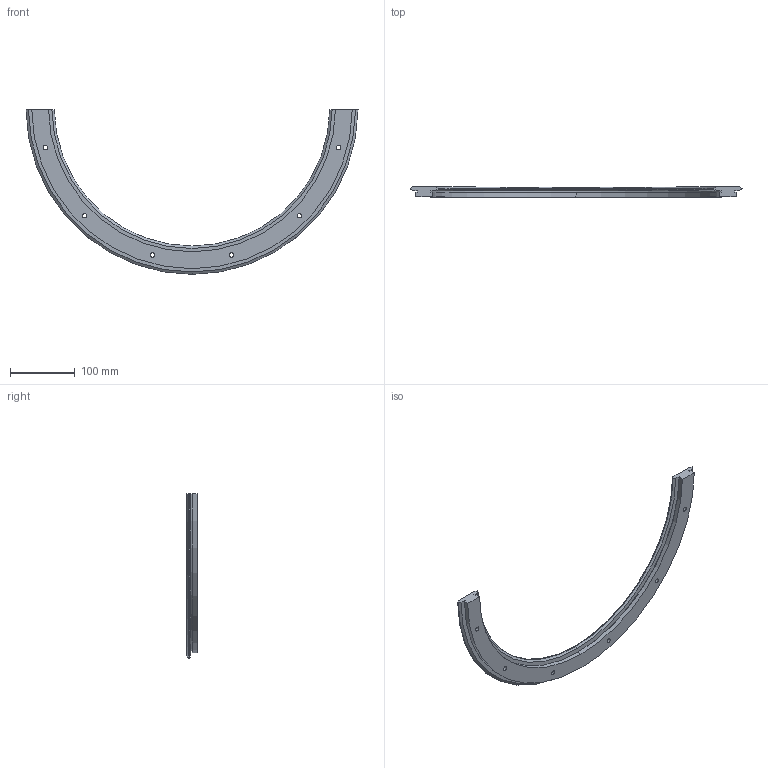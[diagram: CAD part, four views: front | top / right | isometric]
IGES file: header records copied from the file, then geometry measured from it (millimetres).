
Start section: 3D InterOp IGES (v. 2020 1.0.1), Spatial Corp. Copyright (c) 1999-2017.
Global section: file name: r44_468_r180.igs; native system: Spatial Corp.; preprocessor: 3D InterOp ACIS/IGES; author: TraceParts; organization: TraceParts S.A.; date: 20220624.070127; units: millimetre
Bounding box: 511.59 x 15.5 x 253.81 mm (x, y, z)
Surface area: 91700.2 mm2 (no closed solid volume)
Topology: 0 solids, 0 shells, 62 faces, 312 edges, 312 vertices
Faces by surface type: revolution 48, extrusion 14
